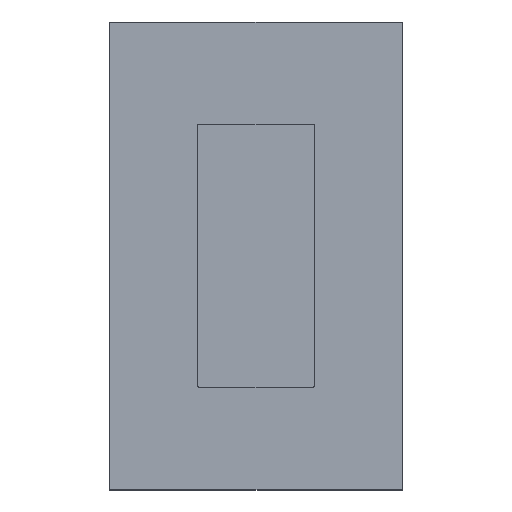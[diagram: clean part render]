
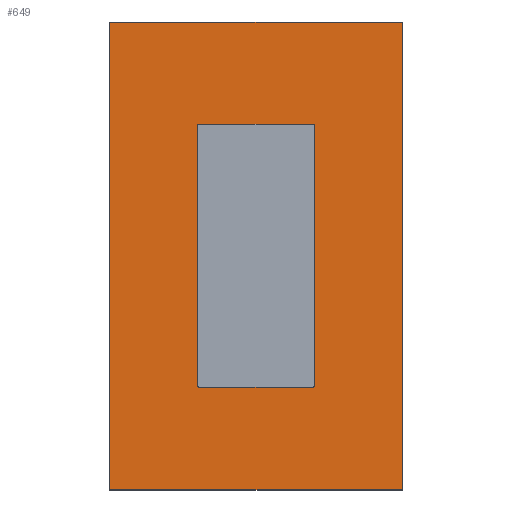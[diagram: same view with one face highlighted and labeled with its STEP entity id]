
A CAD part, top view. The second image highlights one B-rep face of the part: STEP entity #649.
In plain terms, the highlighted planar face has unit normal (0, 0, 1).
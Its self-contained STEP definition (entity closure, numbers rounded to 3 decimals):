
#649 = ADVANCED_FACE('',(#650),#684,.T.);
#650 = FACE_BOUND('',#651,.T.);
#651 = EDGE_LOOP('',(#652,#662,#670,#678));
#652 = ORIENTED_EDGE('',*,*,#653,.T.);
#653 = EDGE_CURVE('',#654,#656,#658,.T.);
#654 = VERTEX_POINT('',#655);
#655 = CARTESIAN_POINT('',(-50.,80.,
    5.));
#656 = VERTEX_POINT('',#657);
#657 = CARTESIAN_POINT('',(-50.,-80.,
    5.));
#658 = LINE('',#659,#660);
#659 = CARTESIAN_POINT('',(-50.,80.,
    5.));
#660 = VECTOR('',#661,1.);
#661 = DIRECTION('',(0.,-1.,0.));
#662 = ORIENTED_EDGE('',*,*,#663,.T.);
#663 = EDGE_CURVE('',#656,#664,#666,.T.);
#664 = VERTEX_POINT('',#665);
#665 = CARTESIAN_POINT('',(50.,-80.,
    5.));
#666 = LINE('',#667,#668);
#667 = CARTESIAN_POINT('',(-50.,-80.,
    5.));
#668 = VECTOR('',#669,1.);
#669 = DIRECTION('',(1.,0.,0.));
#670 = ORIENTED_EDGE('',*,*,#671,.T.);
#671 = EDGE_CURVE('',#664,#672,#674,.T.);
#672 = VERTEX_POINT('',#673);
#673 = CARTESIAN_POINT('',(50.,80.,
    5.));
#674 = LINE('',#675,#676);
#675 = CARTESIAN_POINT('',(50.,-80.,
    5.));
#676 = VECTOR('',#677,1.);
#677 = DIRECTION('',(0.,1.,0.));
#678 = ORIENTED_EDGE('',*,*,#679,.T.);
#679 = EDGE_CURVE('',#672,#654,#680,.T.);
#680 = LINE('',#681,#682);
#681 = CARTESIAN_POINT('',(50.,80.,
    5.));
#682 = VECTOR('',#683,1.);
#683 = DIRECTION('',(-1.,0.,0.));
#684 = PLANE('',#685);
#685 = AXIS2_PLACEMENT_3D('',#686,#687,#688);
#686 = CARTESIAN_POINT('',(-50.,79.,
    5.));
#687 = DIRECTION('',(0.,0.,1.));
#688 = DIRECTION('',(0.,-1.,0.));
